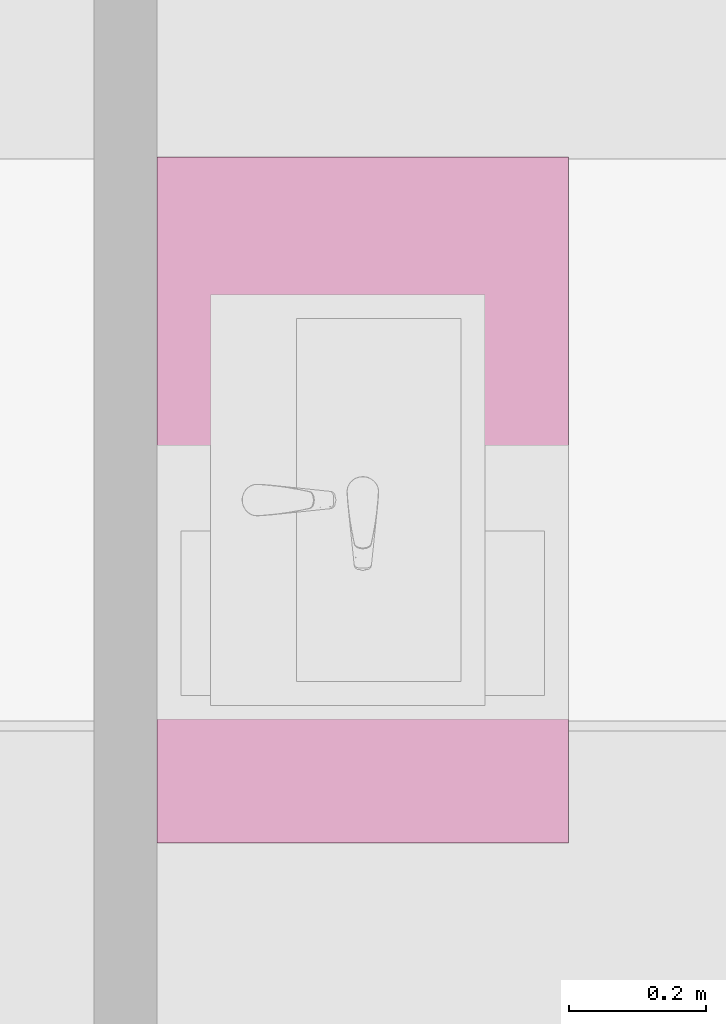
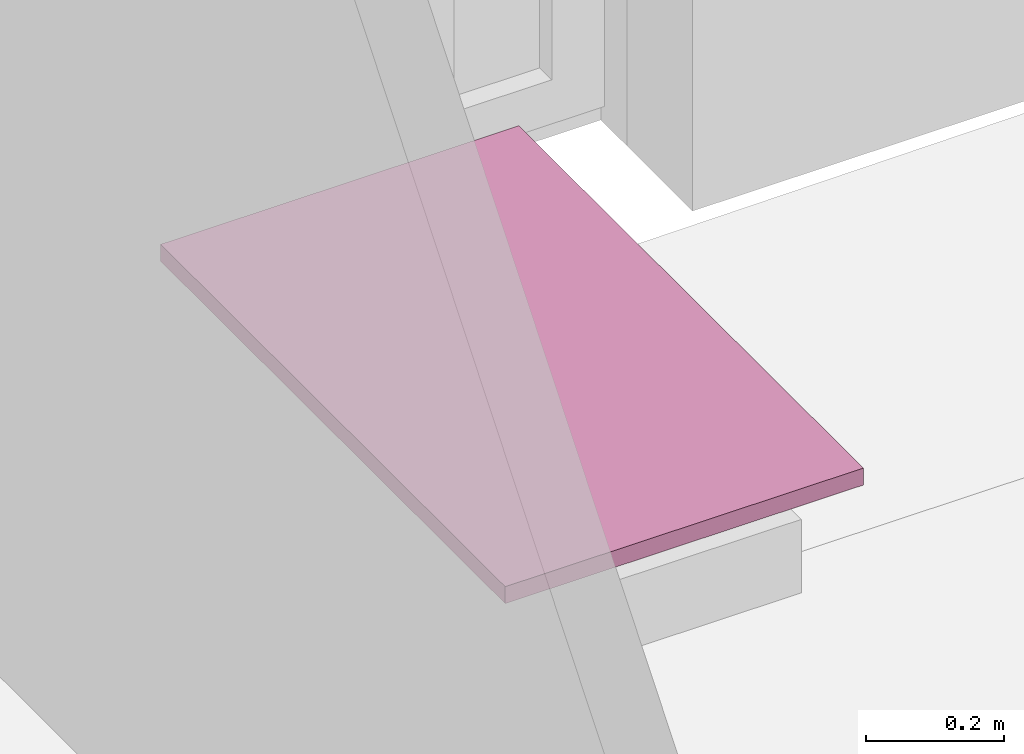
# One storey, part 34 of 57: 1 furnishing.
"""IFC2X3 building model written with IfcOpenShell, lengths in millimetres."""

import ifcopenshell
import ifcopenshell.guid

model = None  # the IFC model being written
_history = None  # IfcOwnerHistory: only IFC2X3 demands one
_inside = {}  # id of a spatial element -> (the spatial element, [elements in it])
_under = {}  # id of a project, library or spatial element -> (it, [spatial elements below it])
_declared = {}  # id of a project -> (the project, [libraries it declares])
_typed = {}  # id of a type object -> (the type object, [elements of that type])
_made_of = {}  # id of a material, layer set ... -> (it, [elements and type objects made of it])


def new_model(schema):
    """Start an empty IFC model of exactly this schema.

    Asked for "IFC4X3", IfcOpenShell would pick the latest addendum, in which some entities
    have other attributes; the version numbers below select the first issue.
    IFC2X3 requires an IfcOwnerHistory on every rooted entity: one is made here for all.
    """
    global model, _history
    if schema == "IFC4X3":
        model = ifcopenshell.file(schema_version=(4, 3, 0, 0))
    else:
        model = ifcopenshell.file(schema=schema)
    _inside.clear()
    _under.clear()
    _declared.clear()
    _typed.clear()
    _made_of.clear()
    _history = None
    if model.schema == "IFC2X3":
        org = make("IfcOrganization", Name="unknown")
        user = make(
            "IfcPersonAndOrganization",
            ThePerson=make("IfcPerson", FamilyName="unknown"),
            TheOrganization=org,
        )
        app = make(
            "IfcApplication",
            ApplicationDeveloper=org,
            Version="unknown",
            ApplicationFullName="unknown",
            ApplicationIdentifier="unknown",
        )
        _history = make(
            "IfcOwnerHistory",
            OwningUser=user,
            OwningApplication=app,
            ChangeAction="ADDED",
            CreationDate=0,
        )
    return model


def make(cls, **values):
    """One entity of the class cls with the attributes given. An attribute that is None is left unset."""
    return model.create_entity(
        cls, **{name: value for name, value in values.items() if value is not None}
    )


def entity(cls, *values):
    """Any entity or typed value of the class cls, its attributes in the order of the schema. None: left unset."""
    e = model.create_entity(cls)
    for i, value in enumerate(values):
        if value is not None:
            e[i] = value
    return e


def rooted(cls, **values):
    """An entity with a GlobalId (a new one), such as an element, a storey or a relation."""
    return make(cls, GlobalId=ifcopenshell.guid.new(), OwnerHistory=_history, **values)


def si_unit(unit_type, name, prefix=None):
    """IfcSIUnit, for example si_unit("LENGTHUNIT", "METRE", prefix="MILLI")."""
    return make("IfcSIUnit", UnitType=unit_type, Prefix=prefix, Name=name)


def converted_unit(unit_type, name, factor, base, dimensions=None, offset=None):
    """IfcConversionBasedUnit, such as the inch: factor (a typed value) times the base unit."""
    return make(
        "IfcConversionBasedUnit"
        if offset is None
        else "IfcConversionBasedUnitWithOffset",
        ConversionOffset=offset,
        Dimensions=None
        if dimensions is None
        else entity("IfcDimensionalExponents", *dimensions),
        UnitType=unit_type,
        Name=name,
        ConversionFactor=make(
            "IfcMeasureWithUnit", ValueComponent=factor, UnitComponent=base
        ),
    )


def assignment(units):
    """IfcUnitAssignment: the units of a project."""
    return None if units is None else make("IfcUnitAssignment", Units=units)


def point(xyz):
    """IfcCartesianPoint."""
    return None if xyz is None else make("IfcCartesianPoint", Coordinates=xyz)


def direction(xyz):
    """IfcDirection."""
    return None if xyz is None else make("IfcDirection", DirectionRatios=xyz)


def frame(location, z_axis=None, x_axis=None):
    """IfcAxis2Placement3D, a coordinate frame: its origin and axes. An axis left out is left unset."""
    return make(
        "IfcAxis2Placement3D",
        Location=point(location),
        Axis=direction(z_axis),
        RefDirection=direction(x_axis),
    )


def frame_2d(location, x_axis=None):
    """IfcAxis2Placement2D, a coordinate frame in the plane: its origin and x axis."""
    return make(
        "IfcAxis2Placement2D", Location=point(location), RefDirection=direction(x_axis)
    )


def origin():
    """The frame at (0, 0, 0) with its axes left unset."""
    return frame((0.0, 0.0, 0.0))


def place(relative_to, where):
    """IfcLocalPlacement: puts the frame where relative to a parent placement (None: the world)."""
    return make(
        "IfcLocalPlacement", PlacementRelTo=relative_to, RelativePlacement=where
    )


def context(
    kind, dimensions, precision=None, world=None, true_north=None, identifier=None
):
    """IfcGeometricRepresentationContext, for example the 3D "Model" context."""
    return make(
        "IfcGeometricRepresentationContext",
        ContextIdentifier=identifier,
        ContextType=kind,
        CoordinateSpaceDimension=dimensions,
        Precision=precision,
        WorldCoordinateSystem=world,
        TrueNorth=true_north,
    )


def subcontext(parent, identifier, kind, view, scale=None):
    """IfcGeometricRepresentationSubContext, for example "Body" below "Model"."""
    return make(
        "IfcGeometricRepresentationSubContext",
        ContextIdentifier=identifier,
        ContextType=kind,
        ParentContext=parent,
        TargetScale=scale,
        TargetView=view,
    )


def project(units=None, contexts=None):
    """IfcProject with its units and contexts."""
    return rooted(
        "IfcProject",
        Name="project",
        RepresentationContexts=contexts,
        UnitsInContext=assignment(units),
    )


def spatial(cls, under=None, at=None, **own):
    """A site, building, storey or space (cls), placed at a placement, below another one or the project."""
    s = rooted(cls, ObjectPlacement=at, **own)
    if under is not None:
        _under.setdefault(under.id(), (under, []))[1].append(s)
    return s


def profile(cls, at=None, kind="AREA", **sizes):
    """A parametric profile (cls). Its sizes go by their IFC names, for example OverallWidth=200.0."""
    return make(cls, ProfileType=kind, Position=at, **sizes)


def rectangle(**sizes):
    """IfcRectangleProfileDef."""
    return profile("IfcRectangleProfileDef", **sizes)


def extrude(swept, where, along, depth):
    """IfcExtrudedAreaSolid: the profile swept, set in the frame where, extruded along a direction by depth."""
    return make(
        "IfcExtrudedAreaSolid",
        SweptArea=swept,
        Position=where,
        ExtrudedDirection=direction(along),
        Depth=depth,
    )


def shape(context_of_items, identifier, shape_type, items):
    """IfcShapeRepresentation: the items that make up one representation, for example the "Body"."""
    return make(
        "IfcShapeRepresentation",
        ContextOfItems=context_of_items,
        RepresentationIdentifier=identifier,
        RepresentationType=shape_type,
        Items=items,
    )


def source(mapping_origin, context_of_items, identifier, shape_type, items):
    """IfcRepresentationMap: a shape defined once, which mapped items show again and again."""
    return make(
        "IfcRepresentationMap",
        MappingOrigin=mapping_origin,
        MappedRepresentation=shape(context_of_items, identifier, shape_type, items),
    )


def transform(
    local_origin,
    x_axis=None,
    y_axis=None,
    z_axis=None,
    scale=None,
    scale2=None,
    scale3=None,
    uniform=True,
):
    """IfcCartesianTransformationOperator3D, or its non-uniform kind. x_axis, y_axis, z_axis: its Axis1, 2, 3."""
    if uniform:
        return make(
            "IfcCartesianTransformationOperator3D",
            Axis1=direction(x_axis),
            Axis2=direction(y_axis),
            LocalOrigin=point(local_origin),
            Scale=scale,
            Axis3=direction(z_axis),
        )
    return make(
        "IfcCartesianTransformationOperator3DnonUniform",
        Axis1=direction(x_axis),
        Axis2=direction(y_axis),
        LocalOrigin=point(local_origin),
        Scale=scale,
        Axis3=direction(z_axis),
        Scale2=scale2,
        Scale3=scale3,
    )


def mapped(mapping_source, mapping_target):
    """IfcMappedItem: shows the shape of a source again, moved by a transform."""
    return make(
        "IfcMappedItem", MappingSource=mapping_source, MappingTarget=mapping_target
    )


def material(Name=None, Category=None):
    """IfcMaterial."""
    return make("IfcMaterial", Name=Name, Category=Category)


def made_of(thing, what):
    """Note that an element or type object is made of a material, layer set ...; save() writes the relation."""
    if what is not None:
        _made_of.setdefault(what.id(), (what, []))[1].append(thing)
    return thing


def type_object(cls, material=None, **own):
    """A type object (cls), such as IfcWallType, which elements share."""
    return made_of(rooted(cls, **own), material)


def type_shapes(of_type, sources):
    """Give a type object the sources (RepresentationMaps) that its elements show as mapped items."""
    of_type.RepresentationMaps = sources


def element(
    cls,
    number,
    at=None,
    inside=None,
    cuts=None,
    type_object=None,
    material=None,
    context=None,
    identifier="Body",
    shape_type=None,
    held_by="IfcProductDefinitionShape",
    body=None,
    shapes=None,
    **own,
):
    """One element of the class cls, such as IfcWall. Its Tag is "e" and its number.

    at: its placement. inside: the storey or other place that contains it. cuts: it is an
    opening in that element (IfcRelVoidsElement). A single representation is given by context,
    identifier, shape_type and body (its items); several are given by shapes. held_by: the class
    of the entity that holds the representations. save() writes the other relations.
    """
    e = rooted(cls, Tag="e%d" % number, ObjectPlacement=at, **own)
    if body is not None:
        shapes = [shape(context, identifier, shape_type, body)]
    if shapes is not None:
        e.Representation = make(held_by, Representations=shapes)
    if inside is not None:
        _inside.setdefault(inside.id(), (inside, []))[1].append(e)
    if cuts is not None:
        rooted(
            "IfcRelVoidsElement", RelatingBuildingElement=cuts, RelatedOpeningElement=e
        )
    if type_object is not None:
        _typed.setdefault(type_object.id(), (type_object, []))[1].append(e)
    return made_of(e, material)


def aggregate(whole, parts):
    """IfcRelAggregates: a whole, such as a stair, and the parts it consists of."""
    return rooted("IfcRelAggregates", RelatingObject=whole, RelatedObjects=parts)


def save(model, path):
    """Write the relations noted so far, then the file.

    IfcRelAggregates (storeys below a building ...), IfcRelContainedInSpatialStructure (elements
    in a storey), IfcRelDefinesByType, IfcRelAssociatesMaterial and IfcRelDeclares: one each for
    every whole, place, type object, material and project.
    """
    for whole, parts in _under.values():
        aggregate(whole, parts)
    for where, things in _inside.values():
        rooted(
            "IfcRelContainedInSpatialStructure",
            RelatedElements=things,
            RelatingStructure=where,
        )
    for kind, things in _typed.values():
        rooted("IfcRelDefinesByType", RelatedObjects=things, RelatingType=kind)
    for what, things in _made_of.values():
        rooted("IfcRelAssociatesMaterial", RelatedObjects=things, RelatingMaterial=what)
    for by, libraries in _declared.values():
        rooted("IfcRelDeclares", RelatingContext=by, RelatedDefinitions=libraries)
    model.write(path)


model = new_model("IFC2X3")

# Units and contexts
model_context = context("Model", 3, precision=0.01, world=origin(), true_north=direction((6.123233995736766e-17, 1.0)))
plan_context = context("Plan", 3, precision=0.01, world=origin(), true_north=direction((6.123233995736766e-17, 1.0)))
body_context = subcontext(model_context, "Body", "Model", "MODEL_VIEW")
ifc_project = project(units=[si_unit("LENGTHUNIT", "METRE", prefix="MILLI"), converted_unit("PLANEANGLEUNIT", "DEGREE", entity("IfcPlaneAngleMeasure", 0.017453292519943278), si_unit("PLANEANGLEUNIT", "RADIAN"), dimensions=[0, 0, 0, 0, 0, 0, 0]), si_unit("AREAUNIT", "SQUARE_METRE")], contexts=[model_context, plan_context])

# Site, building, storey, space
site_placement = place(None, origin())
site = spatial("IfcSite", under=ifc_project, at=site_placement, Name="Default", CompositionType="ELEMENT")
building_placement = place(site_placement, origin())
building = spatial("IfcBuilding", under=site, at=building_placement, CompositionType="ELEMENT")
storey_placement = place(building_placement, frame((0.0, 0.0, 12811.000000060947)))
storey = spatial("IfcBuildingStorey", under=building, at=storey_placement, Name="5K", CompositionType="ELEMENT", Elevation=12811.000000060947)
space_placement = place(storey_placement, origin())
space = spatial("IfcSpace", under=storey, at=space_placement, Name="5-12.11", CompositionType="ELEMENT", InteriorOrExteriorSpace="INTERNAL")

# Furnishing
ifc_material = material(Name="<Unnamed>")
furniture_type = type_object("IfcFurnitureType", Name="HR_Casework_Work-surface_Generic_Rectangular_v1:Default", AssemblyPlace="NOTDEFINED", material=ifc_material)
shared_shape = source(origin(), body_context, "Body", "SweptSolid", [
    extrude(rectangle(XDim=999.9999999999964, YDim=600.0, at=frame_2d((8.810729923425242e-13, 0.0), x_axis=(1.0, 0.0))), frame((0.0, 300.0, -11941.000000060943)), (0.0, 0.0, 1.0), 29.999999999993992),
])
type_shapes(furniture_type, [shared_shape])
furnishing_placement = place(space_placement, frame((3872.0, 14100.0, 12811.000000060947), z_axis=(0.0, 0.0, 1.0), x_axis=(0.0, 1.0, 0.0)))
element("IfcFurnishingElement", 1, at=furnishing_placement, inside=space, type_object=furniture_type, material=ifc_material, Name="HR_Casework_Work-surface_Generic_Rectangular_v1:Default", ObjectType="HR_Casework_Work-surface_Generic_Rectangular_v1:Default", context=body_context, shape_type="MappedRepresentation", body=[
    mapped(shared_shape, transform((0.0, 0.0, 0.0), scale=1.0)),
])

save(model, "model.ifc")
